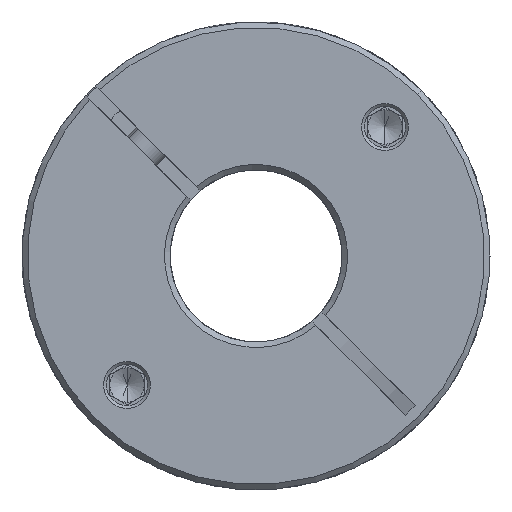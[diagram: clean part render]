
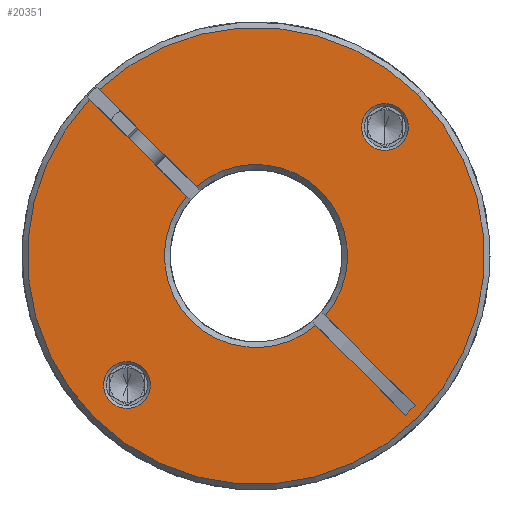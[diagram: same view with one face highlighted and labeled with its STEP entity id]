
A CAD part, front view. The second image highlights one B-rep face of the part: STEP entity #20351.
In plain terms, the highlighted planar face has unit normal (0, -1, 0).
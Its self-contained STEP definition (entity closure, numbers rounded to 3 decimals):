
#75 = ORIENTED_EDGE ( 'NONE', *, *, #1826, .T. ) ;
#622 = EDGE_CURVE ( 'NONE', #2508, #11891, #2878, .T. ) ;
#662 = DIRECTION ( 'NONE',  ( 0., 1., 0. ) ) ;
#745 = VECTOR ( 'NONE', #9629, 1000. ) ;
#789 = AXIS2_PLACEMENT_3D ( 'NONE', #3634, #15235, #10057 ) ;
#909 = EDGE_CURVE ( 'NONE', #6228, #20407, #14500, .T. ) ;
#944 = DIRECTION ( 'NONE',  ( 0.707, 0., 0.707 ) ) ;
#1194 = CARTESIAN_POINT ( 'NONE',  ( -11.406, -67.045, 78.085 ) ) ;
#1511 = VECTOR ( 'NONE', #6157, 1000. ) ;
#1826 = EDGE_CURVE ( 'NONE', #1999, #18887, #5902, .T. ) ;
#1837 = CARTESIAN_POINT ( 'NONE',  ( 20.741, -67.045, 91.476 ) ) ;
#1863 = CARTESIAN_POINT ( 'NONE',  ( 5.936, -67.045, 57.915 ) ) ;
#1897 = ORIENTED_EDGE ( 'NONE', *, *, #20513, .T. ) ;
#1999 = VERTEX_POINT ( 'NONE', #17200 ) ;
#2322 = CARTESIAN_POINT ( 'NONE',  ( 18.988, -67.045, 44.862 ) ) ;
#2508 = VERTEX_POINT ( 'NONE', #4014 ) ;
#2878 = LINE ( 'NONE', #17694, #9053 ) ;
#3109 = AXIS2_PLACEMENT_3D ( 'NONE', #14210, #19107, #5961 ) ;
#3464 = DIRECTION ( 'NONE',  ( 0.707, 0., 0.707 ) ) ;
#3520 = VERTEX_POINT ( 'NONE', #1863 ) ;
#3575 = DIRECTION ( 'NONE',  ( 0., 1., 0. ) ) ;
#3634 = CARTESIAN_POINT ( 'NONE',  ( 16.003, -67.045, 86.738 ) ) ;
#3992 = VERTEX_POINT ( 'NONE', #18327 ) ;
#4012 = ORIENTED_EDGE ( 'NONE', *, *, #909, .F. ) ;
#4014 = CARTESIAN_POINT ( 'NONE',  ( 7.35, -67.045, 59.329 ) ) ;
#4100 = CIRCLE ( 'NONE', #3109, 33.2 ) ;
#4182 = VERTEX_POINT ( 'NONE', #7458 ) ;
#4190 = DIRECTION ( 'NONE',  ( 0., -1., 0. ) ) ;
#4208 = ORIENTED_EDGE ( 'NONE', *, *, #14338, .T. ) ;
#4541 = EDGE_CURVE ( 'NONE', #19266, #2508, #16032, .T. ) ;
#4727 = DIRECTION ( 'NONE',  ( 0., -1., 0. ) ) ;
#5017 = FACE_BOUND ( 'NONE', #16527, .T. ) ;
#5327 = DIRECTION ( 'NONE',  ( 0., 1., 0. ) ) ;
#5339 = ORIENTED_EDGE ( 'NONE', *, *, #15332, .F. ) ;
#5524 = EDGE_CURVE ( 'NONE', #6228, #16931, #4100, .T. ) ;
#5562 = CIRCLE ( 'NONE', #15710, 3.4 ) ;
#5636 = AXIS2_PLACEMENT_3D ( 'NONE', #8692, #7297, #18858 ) ;
#5643 = PLANE ( 'NONE',  #5636 ) ;
#5868 = ORIENTED_EDGE ( 'NONE', *, *, #8631, .T. ) ;
#5902 = LINE ( 'NONE', #11042, #1511 ) ;
#5961 = DIRECTION ( 'NONE',  ( 0.707, 0., 0.707 ) ) ;
#6157 = DIRECTION ( 'NONE',  ( 0.707, 0., -0.707 ) ) ;
#6228 = VERTEX_POINT ( 'NONE', #12153 ) ;
#6333 = CARTESIAN_POINT ( 'NONE',  ( -3.442, -67.045, 67.293 ) ) ;
#6477 = DIRECTION ( 'NONE',  ( 0.707, 0., -0.707 ) ) ;
#6562 = VERTEX_POINT ( 'NONE', #12059 ) ;
#6697 = AXIS2_PLACEMENT_3D ( 'NONE', #14325, #11189, #21137 ) ;
#6755 = CIRCLE ( 'NONE', #17840, 13.3 ) ;
#6926 = AXIS2_PLACEMENT_3D ( 'NONE', #20341, #662, #12278 ) ;
#7079 = CARTESIAN_POINT ( 'NONE',  ( -2.735, -67.045, 68. ) ) ;
#7104 = DIRECTION ( 'NONE',  ( 0.707, 0., 0.707 ) ) ;
#7149 = CARTESIAN_POINT ( 'NONE',  ( 6.669, -67.045, 77.405 ) ) ;
#7297 = DIRECTION ( 'NONE',  ( 0., -1., 0. ) ) ;
#7376 = AXIS2_PLACEMENT_3D ( 'NONE', #19545, #4727, #21168 ) ;
#7458 = CARTESIAN_POINT ( 'NONE',  ( 18.407, -67.045, 89.142 ) ) ;
#7642 = EDGE_CURVE ( 'NONE', #3992, #4182, #5562, .T. ) ;
#7674 = ORIENTED_EDGE ( 'NONE', *, *, #15518, .T. ) ;
#7746 = EDGE_LOOP ( 'NONE', ( #7674, #7775 ) ) ;
#7775 = ORIENTED_EDGE ( 'NONE', *, *, #21348, .T. ) ;
#8023 = DIRECTION ( 'NONE',  ( 0.707, 0., 0.707 ) ) ;
#8065 = CIRCLE ( 'NONE', #18147, 3.4 ) ;
#8433 = DIRECTION ( 'NONE',  ( 0.707, 0., -0.707 ) ) ;
#8479 = VERTEX_POINT ( 'NONE', #2322 ) ;
#8631 = EDGE_CURVE ( 'NONE', #11891, #8479, #19208, .T. ) ;
#8692 = CARTESIAN_POINT ( 'NONE',  ( -2.735, -67.045, 68. ) ) ;
#8834 = AXIS2_PLACEMENT_3D ( 'NONE', #9026, #4190, #944 ) ;
#9026 = CARTESIAN_POINT ( 'NONE',  ( -2.735, -67.045, 68. ) ) ;
#9053 = VECTOR ( 'NONE', #6477, 1000. ) ;
#9259 = CIRCLE ( 'NONE', #6926, 3.4 ) ;
#9395 = CIRCLE ( 'NONE', #8834, 33.2 ) ;
#9615 = ORIENTED_EDGE ( 'NONE', *, *, #4541, .T. ) ;
#9629 = DIRECTION ( 'NONE',  ( 0.707, 0., -0.707 ) ) ;
#9900 = EDGE_CURVE ( 'NONE', #3520, #20407, #6755, .T. ) ;
#9920 = VECTOR ( 'NONE', #10890, 1000. ) ;
#9961 = EDGE_CURVE ( 'NONE', #4182, #3992, #16069, .T. ) ;
#9990 = AXIS2_PLACEMENT_3D ( 'NONE', #7079, #5327, #16829 ) ;
#10057 = DIRECTION ( 'NONE',  ( 0.707, 0., 0.707 ) ) ;
#10100 = VECTOR ( 'NONE', #8433, 1000. ) ;
#10890 = DIRECTION ( 'NONE',  ( -0.707, 0., -0.707 ) ) ;
#10902 = VERTEX_POINT ( 'NONE', #1837 ) ;
#11042 = CARTESIAN_POINT ( 'NONE',  ( -2.028, -67.045, 68.707 ) ) ;
#11108 = CARTESIAN_POINT ( 'NONE',  ( 18.988, -67.045, 44.862 ) ) ;
#11189 = DIRECTION ( 'NONE',  ( 0., 1., 0. ) ) ;
#11421 = DIRECTION ( 'NONE',  ( 0., 1., 0. ) ) ;
#11667 = DIRECTION ( 'NONE',  ( 0., 1., 0. ) ) ;
#11891 = VERTEX_POINT ( 'NONE', #20403 ) ;
#11954 = CARTESIAN_POINT ( 'NONE',  ( -19.069, -67.045, 51.666 ) ) ;
#12059 = CARTESIAN_POINT ( 'NONE',  ( -23.878, -67.045, 46.858 ) ) ;
#12153 = CARTESIAN_POINT ( 'NONE',  ( -26.908, -67.045, 90.758 ) ) ;
#12240 = FACE_OUTER_BOUND ( 'NONE', #15764, .T. ) ;
#12278 = DIRECTION ( 'NONE',  ( 0.707, 0., 0.707 ) ) ;
#12526 = ORIENTED_EDGE ( 'NONE', *, *, #5524, .T. ) ;
#13032 = FACE_BOUND ( 'NONE', #7746, .T. ) ;
#13495 = CARTESIAN_POINT ( 'NONE',  ( -3.442, -67.045, 67.293 ) ) ;
#14080 = ORIENTED_EDGE ( 'NONE', *, *, #16546, .T. ) ;
#14210 = CARTESIAN_POINT ( 'NONE',  ( -2.735, -67.045, 68. ) ) ;
#14325 = CARTESIAN_POINT ( 'NONE',  ( -2.735, -67.045, 68. ) ) ;
#14338 = EDGE_CURVE ( 'NONE', #18887, #19266, #19405, .T. ) ;
#14500 = LINE ( 'NONE', #13495, #10100 ) ;
#14703 = LINE ( 'NONE', #6333, #745 ) ;
#15235 = DIRECTION ( 'NONE',  ( 0., 1., 0. ) ) ;
#15330 = ORIENTED_EDGE ( 'NONE', *, *, #622, .T. ) ;
#15332 = EDGE_CURVE ( 'NONE', #3520, #8479, #14703, .T. ) ;
#15518 = EDGE_CURVE ( 'NONE', #15778, #6562, #9259, .T. ) ;
#15710 = AXIS2_PLACEMENT_3D ( 'NONE', #18761, #11667, #3464 ) ;
#15764 = EDGE_LOOP ( 'NONE', ( #4012, #12526, #14080, #1897, #75, #4208, #9615, #15330, #5868, #5339, #18783 ) ) ;
#15778 = VERTEX_POINT ( 'NONE', #11954 ) ;
#16032 = CIRCLE ( 'NONE', #9990, 13.3 ) ;
#16069 = CIRCLE ( 'NONE', #789, 3.4 ) ;
#16527 = EDGE_LOOP ( 'NONE', ( #20953, #21240 ) ) ;
#16546 = EDGE_CURVE ( 'NONE', #16931, #10902, #20559, .T. ) ;
#16829 = DIRECTION ( 'NONE',  ( 0.707, 0., 0.707 ) ) ;
#16931 = VERTEX_POINT ( 'NONE', #19300 ) ;
#17006 = CARTESIAN_POINT ( 'NONE',  ( -21.473, -67.045, 49.262 ) ) ;
#17200 = CARTESIAN_POINT ( 'NONE',  ( -25.493, -67.045, 92.172 ) ) ;
#17694 = CARTESIAN_POINT ( 'NONE',  ( -2.028, -67.045, 68.707 ) ) ;
#17840 = AXIS2_PLACEMENT_3D ( 'NONE', #19845, #11421, #8023 ) ;
#18147 = AXIS2_PLACEMENT_3D ( 'NONE', #17006, #3575, #7104 ) ;
#18327 = CARTESIAN_POINT ( 'NONE',  ( 13.599, -67.045, 84.334 ) ) ;
#18761 = CARTESIAN_POINT ( 'NONE',  ( 16.003, -67.045, 86.738 ) ) ;
#18783 = ORIENTED_EDGE ( 'NONE', *, *, #9900, .T. ) ;
#18858 = DIRECTION ( 'NONE',  ( 0.707, 0., 0.707 ) ) ;
#18887 = VERTEX_POINT ( 'NONE', #1194 ) ;
#19107 = DIRECTION ( 'NONE',  ( 0., -1., 0. ) ) ;
#19208 = LINE ( 'NONE', #11108, #9920 ) ;
#19266 = VERTEX_POINT ( 'NONE', #7149 ) ;
#19300 = CARTESIAN_POINT ( 'NONE',  ( -26.211, -67.045, 44.524 ) ) ;
#19405 = CIRCLE ( 'NONE', #6697, 13.3 ) ;
#19545 = CARTESIAN_POINT ( 'NONE',  ( -2.735, -67.045, 68. ) ) ;
#19845 = CARTESIAN_POINT ( 'NONE',  ( -2.735, -67.045, 68. ) ) ;
#20341 = CARTESIAN_POINT ( 'NONE',  ( -21.473, -67.045, 49.262 ) ) ;
#20351 = ADVANCED_FACE ( 'NONE', ( #5017, #13032, #12240 ), #5643, .T. ) ;
#20403 = CARTESIAN_POINT ( 'NONE',  ( 20.402, -67.045, 46.277 ) ) ;
#20407 = VERTEX_POINT ( 'NONE', #20761 ) ;
#20513 = EDGE_CURVE ( 'NONE', #10902, #1999, #9395, .T. ) ;
#20559 = CIRCLE ( 'NONE', #7376, 33.2 ) ;
#20761 = CARTESIAN_POINT ( 'NONE',  ( -12.82, -67.045, 76.671 ) ) ;
#20953 = ORIENTED_EDGE ( 'NONE', *, *, #9961, .T. ) ;
#21137 = DIRECTION ( 'NONE',  ( 0.707, 0., 0.707 ) ) ;
#21168 = DIRECTION ( 'NONE',  ( 0.707, 0., 0.707 ) ) ;
#21240 = ORIENTED_EDGE ( 'NONE', *, *, #7642, .T. ) ;
#21348 = EDGE_CURVE ( 'NONE', #6562, #15778, #8065, .T. ) ;
